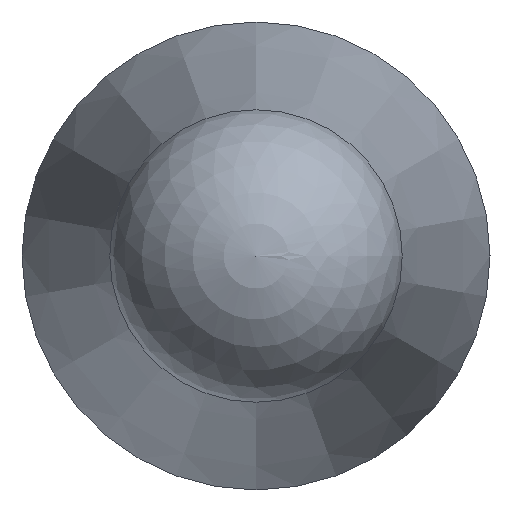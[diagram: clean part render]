
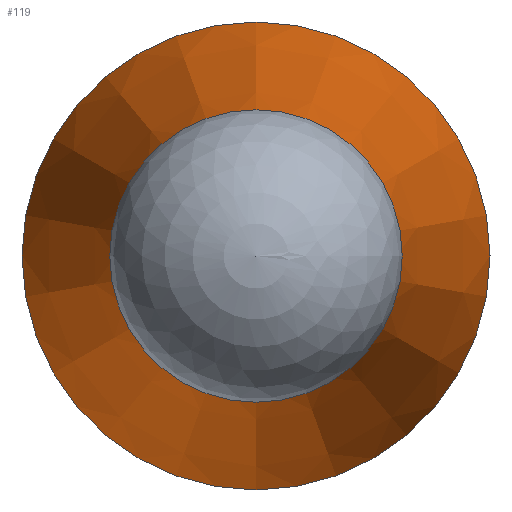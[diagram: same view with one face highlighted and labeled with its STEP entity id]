
A CAD part, left-side view. The second image highlights one B-rep face of the part: STEP entity #119.
In plain terms, the highlighted conical face has half-angle 11 degrees and reference radius 2 mm.
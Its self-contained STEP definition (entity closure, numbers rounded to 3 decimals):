
#93=CONICAL_SURFACE('',#191,2.,11.);
#107=FACE_BOUND('',#137,.T.);
#108=FACE_BOUND('',#138,.T.);
#119=ADVANCED_FACE('',(#107,#108),#93,.T.);
#137=EDGE_LOOP('',(#151));
#138=EDGE_LOOP('',(#152));
#151=ORIENTED_EDGE('',*,*,#168,.T.);
#152=ORIENTED_EDGE('',*,*,#169,.F.);
#161=VERTEX_POINT('',#244);
#162=VERTEX_POINT('',#247);
#168=EDGE_CURVE('',#161,#161,#175,.T.);
#169=EDGE_CURVE('',#162,#162,#176,.T.);
#175=CIRCLE('',#188,1.2);
#176=CIRCLE('',#190,2.);
#188=AXIS2_PLACEMENT_3D('',#243,#215,#216);
#190=AXIS2_PLACEMENT_3D('',#246,#219,#220);
#191=AXIS2_PLACEMENT_3D('',#248,#221,#222);
#215=DIRECTION('',(1.,0.,0.));
#216=DIRECTION('',(0.,0.,-1.));
#219=DIRECTION('',(1.,0.,0.));
#220=DIRECTION('',(0.,0.,-1.));
#221=DIRECTION('',(1.,0.,0.));
#222=DIRECTION('',(0.,0.,-1.));
#243=CARTESIAN_POINT('',(7880.538,6111.981,0.));
#244=CARTESIAN_POINT('',(7880.538,6111.981,-1.2));
#246=CARTESIAN_POINT('',(7884.654,6111.981,0.));
#247=CARTESIAN_POINT('',(7884.654,6111.981,-2.));
#248=CARTESIAN_POINT('',(7884.654,6111.981,0.));
